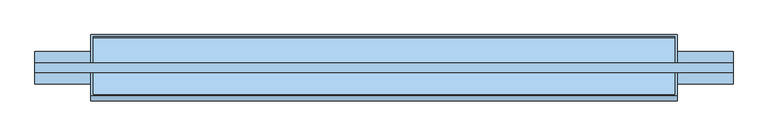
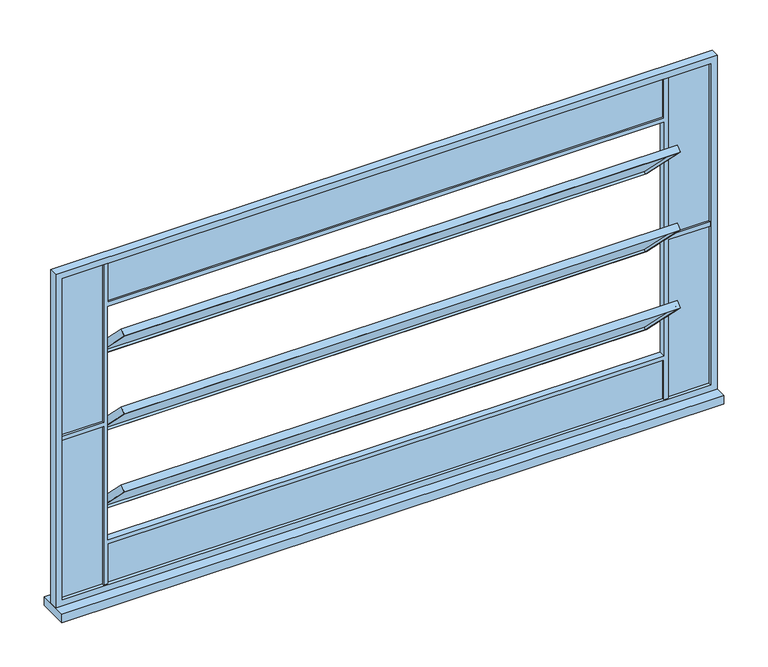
"""IFC4 building model written with IfcOpenShell, lengths in millimetres: window geometry, JANELA BASCULANTE PRÁTICA DE REVIT : JANELA AÇO E VIDRO BASCULANTE 300X150."""

from ifc_helpers import new_model, si_unit, frame, origin, place, context, project, spatial, polyline, outline, extrude, source, transform, mapped, element, save


def window_9a90df48(model_context):
    return source(origin(), model_context, "Body", "SweptSolid", [
        extrude(outline(polyline([(-353.3333333, 0.0), (0.0, 0.0), (0.0, -2500.0), (-353.3333333, -2500.0), (-353.3333333, 0.0)])), frame((-1250.0, 121.3866641, 1844.8756014), z_axis=(0.0, 0.7071067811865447, 0.7071067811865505), x_axis=(0.0, 0.7071067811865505, -0.7071067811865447)), (0.0, 0.0, 1.0), 10.0),
        extrude(outline(polyline([(-373.3333333, 0.0), (0.0, 0.0), (0.0, -2520.0), (-373.3333333, -2520.0), (-373.3333333, 0.0)]), holes=[polyline([(-363.3333333, -10.0), (-363.3333333, -2510.0), (-10.0, -2510.0), (-10.0, -10.0), (-363.3333333, -10.0)])]), frame((-1260.0, 121.3866641, 1830.7334658), z_axis=(0.0, 0.7071067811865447, 0.7071067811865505), x_axis=(0.0, 0.7071067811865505, -0.7071067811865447)), (0.0, 0.0, 1.0), 30.0),
        extrude(outline(polyline([(-353.3333333, 0.0), (0.0, 0.0), (0.0, -2500.0), (-353.3333333, -2500.0), (-353.3333333, 0.0)])), frame((-1250.0, 121.3866641, 1471.5422681), z_axis=(0.0, 0.7071067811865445, 0.7071067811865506), x_axis=(0.0, 0.7071067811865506, -0.7071067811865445)), (0.0, 0.0, 1.0), 10.0),
        extrude(outline(polyline([(-373.3333333, 0.0), (0.0, 0.0), (0.0, -2520.0), (-373.3333333, -2520.0), (-373.3333333, 0.0)]), holes=[polyline([(-363.3333333, -10.0), (-363.3333333, -2510.0), (-10.0, -2510.0), (-10.0, -10.0), (-363.3333333, -10.0)])]), frame((-1260.0, 121.3866641, 1457.4001325), z_axis=(0.0, 0.7071067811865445, 0.7071067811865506), x_axis=(0.0, 0.7071067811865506, -0.7071067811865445)), (0.0, 0.0, 1.0), 30.0),
        extrude(outline(polyline([(-353.3333333, 0.0), (0.0, 0.0), (0.0, -2500.0), (-353.3333333, -2500.0), (-353.3333333, 0.0)])), frame((-1250.0, 121.3866641, 1098.2089348), z_axis=(0.0, 0.7071067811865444, 0.7071067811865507), x_axis=(0.0, 0.7071067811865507, -0.7071067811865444)), (0.0, 0.0, 1.0), 10.0),
        extrude(outline(polyline([(-373.3333333, 0.0), (0.0, 0.0), (0.0, -2520.0), (-373.3333333, -2520.0), (-373.3333333, 0.0)]), holes=[polyline([(-363.3333334, -10.0), (-363.3333334, -2510.0), (-10.0, -2510.0), (-10.0, -10.0), (-363.3333334, -10.0)])]), frame((-1260.0, 121.3866641, 1084.0667991), z_axis=(0.0, 0.7071067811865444, 0.7071067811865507), x_axis=(0.0, 0.7071067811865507, -0.7071067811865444)), (0.0, 0.0, 1.0), 30.0),
        extrude(outline(polyline([(1500.0, 70.0), (1500.0, -70.0), (-1500.0, -70.0), (-1500.0, 70.0), (1500.0, 70.0)])), frame((0.0, 0.0, 760.0), z_axis=(0.0, 0.0, 1.0), x_axis=(1.0, 0.0, 0.0)), (0.0, 0.0, 1.0), 40.0),
        extrude(outline(polyline([(1260.0, -5.0), (-1260.0, -5.0), (-1260.0, 5.0), (1260.0, 5.0), (1260.0, -5.0)])), frame((0.0, 0.0, 830.0), z_axis=(0.0, 0.0, 1.0), x_axis=(1.0, 0.0, 0.0)), (0.0, 0.0, 1.0), 190.0),
        extrude(outline(polyline([(-1280.0, -5.0), (-1470.0, -5.0), (-1470.0, 5.0), (-1280.0, 5.0), (-1280.0, -5.0)])), frame((0.0, 0.0, 1610.0), z_axis=(0.0, 0.0, 1.0), x_axis=(1.0, 0.0, 0.0)), (0.0, 0.0, 1.0), 760.0),
        extrude(outline(polyline([(-1280.0, -5.0), (-1470.0, -5.0), (-1470.0, 5.0), (-1280.0, 5.0), (-1280.0, -5.0)])), frame((0.0, 0.0, 830.0), z_axis=(0.0, 0.0, 1.0), x_axis=(1.0, 0.0, 0.0)), (0.0, 0.0, 1.0), 760.0),
        extrude(outline(polyline([(1260.0, -5.0), (-1260.0, -5.0), (-1260.0, 5.0), (1260.0, 5.0), (1260.0, -5.0)])), frame((0.0, 0.0, 2180.0), z_axis=(0.0, 0.0, 1.0), x_axis=(1.0, 0.0, 0.0)), (0.0, 0.0, 1.0), 190.0),
        extrude(outline(polyline([(1470.0, -5.0), (1280.0, -5.0), (1280.0, 5.0), (1470.0, 5.0), (1470.0, -5.0)])), frame((0.0, 0.0, 830.0), z_axis=(0.0, 0.0, 1.0), x_axis=(1.0, 0.0, 0.0)), (0.0, 0.0, 1.0), 760.0),
        extrude(outline(polyline([(1470.0, -5.0), (1280.0, -5.0), (1280.0, 5.0), (1470.0, 5.0), (1470.0, -5.0)])), frame((0.0, 0.0, 1610.0), z_axis=(0.0, 0.0, 1.0), x_axis=(1.0, 0.0, 0.0)), (0.0, 0.0, 1.0), 760.0),
        extrude(outline(polyline([(2370.0, -1260.0), (2370.0, -1280.0), (1610.0, -1280.0), (1610.0, -1470.0), (1590.0, -1470.0), (1590.0, -1280.0), (830.0, -1280.0), (830.0, -1260.0), (1020.0, -1260.0), (1020.0, 1260.0), (830.0, 1260.0), (830.0, 1280.0), (1590.0, 1280.0), (1590.0, 1470.0), (1610.0, 1470.0), (1610.0, 1280.0), (2370.0, 1280.0), (2370.0, 1260.0), (2180.0, 1260.0), (2180.0, -1260.0), (2370.0, -1260.0)]), holes=[polyline([(1040.0, 1260.0), (1040.0, -1260.0), (2160.0, -1260.0), (2160.0, 1260.0), (1040.0, 1260.0)])]), frame((0.0, -15.0, 0.0), z_axis=(0.0, 1.0, 0.0), x_axis=(0.0, 0.0, 1.0)), (0.0, 0.0, 1.0), 30.0),
        extrude(outline(polyline([(2400.0, 1500.0), (2400.0, -1500.0), (800.0, -1500.0), (800.0, 1500.0), (2400.0, 1500.0)]), holes=[polyline([(2370.0, 1470.0), (830.0, 1470.0), (830.0, -1470.0), (2370.0, -1470.0), (2370.0, 1470.0)])]), frame((0.0, -20.0, 0.0), z_axis=(0.0, 1.0, 0.0), x_axis=(0.0, 0.0, 1.0)), (0.0, 0.0, 1.0), 40.0),
    ])


if __name__ == "__main__":
    model = new_model("IFC4")
    model_context = context("Model", 3, world=origin())
    ifc_project = project(units=[si_unit("LENGTHUNIT", "METRE", prefix="MILLI")], contexts=[model_context])
    site = spatial("IfcSite", under=ifc_project)
    building = spatial("IfcBuilding", under=site)
    placement = place(None, origin())
    window_shape = window_9a90df48(model_context)
    element("IfcWindow", 1, ObjectType="JANELA BASCULANTE PRÁTICA DE REVIT : JANELA AÇO E VIDRO BASCULANTE 300X150", at=placement, inside=building, context=model_context, shape_type="MappedRepresentation", body=[
        mapped(window_shape, transform((0.0, 0.0, 0.0), x_axis=(1.0, 0.0, 0.0), y_axis=(0.0, 1.0, 0.0), z_axis=(0.0, 0.0, 1.0))),
    ])
    save(model, "model.ifc")
